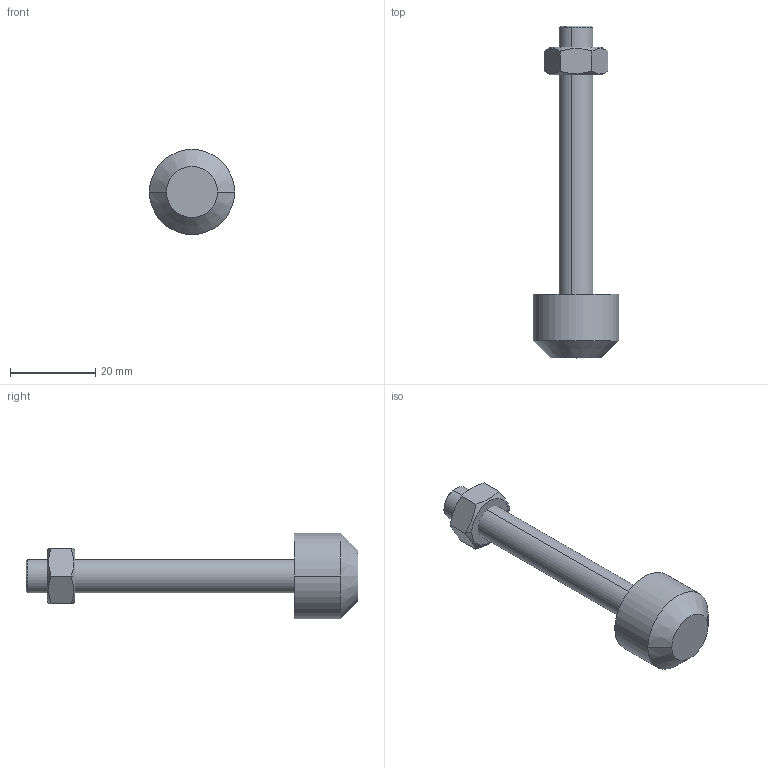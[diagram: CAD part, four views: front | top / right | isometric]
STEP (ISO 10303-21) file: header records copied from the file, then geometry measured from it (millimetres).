
FILE_DESCRIPTION (( 'STEP AP203' ), '1' );
FILE_NAME ('PB-M8.STEP', '2016-07-25T17:57:54', ( 'Ricardo' ), ( '' ), 'SwSTEP 2.0', 'SolidWorks 2015', '' );
FILE_SCHEMA (( 'CONFIG_CONTROL_DESIGN' ));
Length unit declared in the file: millimetre
Products named in the file (4): PB-M8; 20.20010; 20.20014; 11.50002
Assembly tree (3 placements, depth 2):
  PB-M8
    20.20010
    20.20014
    11.50002
Bounding box: 20 x 78 x 20 mm (x, y, z)
Volume: 8053.3 mm3; surface area: 4059.4 mm2
Topology: 3 solids, 3 shells, 36 faces, 78 edges, 47 vertices
Faces by surface type: cone 16, plane 12, cylinder 8
Entity records: 1484 total; most frequent: CARTESIAN_POINT 289, DIRECTION 182, ORIENTED_EDGE 152, AXIS2_PLACEMENT_3D 76, EDGE_CURVE 76, VERTEX_POINT 47, EDGE_LOOP 39, ADVANCED_FACE 36
